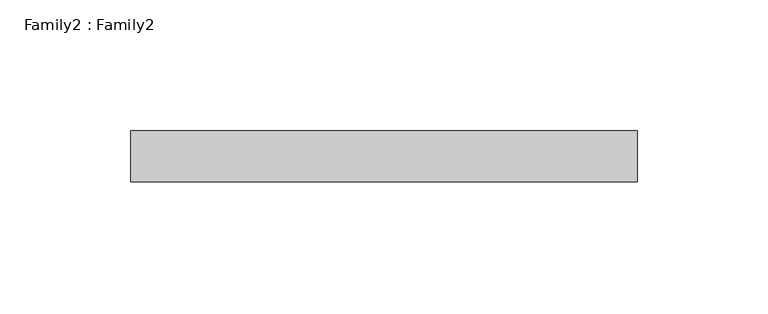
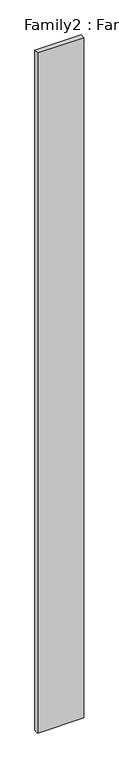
"""IFC4 building model written with IfcOpenShell, lengths in millimetres: plate geometry, Family2 : Family2."""

from ifc_helpers import new_model, si_unit, origin, origin_with_axes, place, context, project, spatial, polyline, outline, extrude, source, transform, mapped, element, save


def family2_family2_01868289(model_context):
    return source(origin(), model_context, "Body", "SweptSolid", [
        extrude(outline(polyline([(-96.6216, -50.038), (-96.6216, -30.7340002), (96.6216, -30.7340002), (96.6216, -50.038), (-96.6216, -50.038)])), origin_with_axes(), (0.0, 0.0, 1.0), 3012.2368001),
    ])


if __name__ == "__main__":
    model = new_model("IFC4")
    model_context = context("Model", 3, world=origin())
    ifc_project = project(units=[si_unit("LENGTHUNIT", "METRE", prefix="MILLI")], contexts=[model_context])
    site = spatial("IfcSite", under=ifc_project)
    building = spatial("IfcBuilding", under=site)
    placement = place(None, origin())
    family2_family2_shape = family2_family2_01868289(model_context)
    element("IfcPlate", 1, ObjectType="Family2 : Family2", at=placement, inside=building, context=model_context, shape_type="MappedRepresentation", body=[
        mapped(family2_family2_shape, transform((0.0, 0.0, 0.0), x_axis=(1.0, 0.0, 0.0), y_axis=(0.0, 1.0, 0.0), z_axis=(0.0, 0.0, 1.0))),
    ])
    save(model, "model.ifc")
